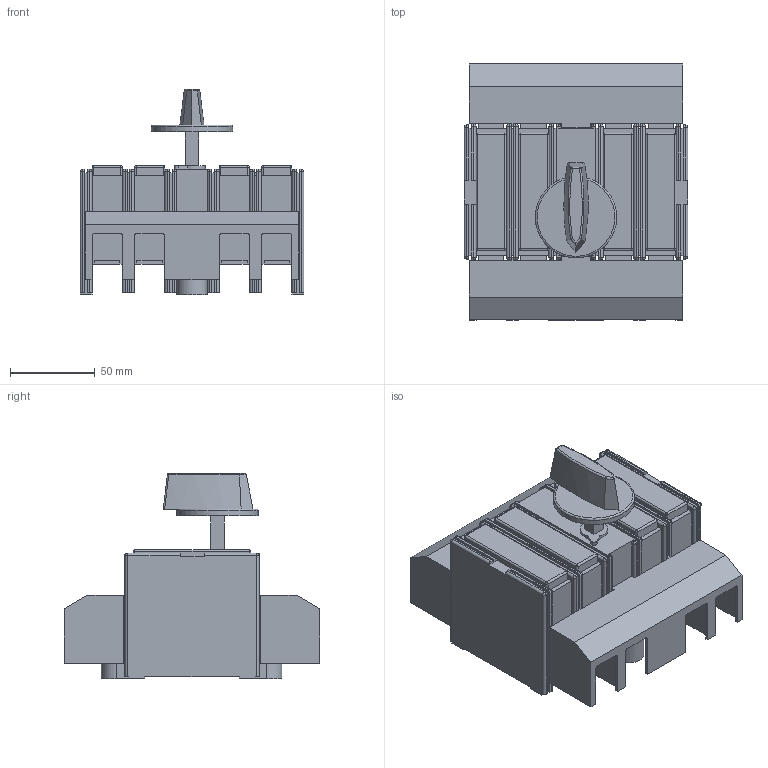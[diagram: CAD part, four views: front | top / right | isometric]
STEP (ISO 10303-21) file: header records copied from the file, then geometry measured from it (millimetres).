
FILE_DESCRIPTION(/* description */ (''),/* implementation_level */ '2;1');
FILE_NAME(/* name */ 'RA100 P3 N-R z oslonka zaciskow, RA100 P4-R z oslonka zaciskow.stp',/* time_stamp */ '2021-08-17T12:50:01+02:00',/* author */ (''),/* organization */ (''),/* preprocessor_version */ 'ST-DEVELOPER v18.1',/* originating_system */ 'SIEMENS PLM Software NX 1965',/* authorisation */ '');
FILE_SCHEMA (('AUTOMOTIVE_DESIGN { 1 0 10303 214 3 1 1 1 }'));
Length unit declared in the file: millimetre
Products named in the file (1): RA100 P3 N-R z oslonka zaciskow,  RA100 P4-R z oslonka zaciskow_stp
Bounding box: 132 x 151.03 x 121 mm (x, y, z)
Volume: 713705.7 mm3; surface area: 134586.8 mm2
Topology: 1 solids, 1 shells, 500 faces, 1357 edges, 828 vertices
Faces by surface type: plane 314, cylinder 137, sphere 41, bspline 7, torus 1
Full cylindrical faces by diameter (mm): 5.8 x2, 6.5 x8, 10 x2, 11.5 x2, 48 x1
Entity records: 15252 total; most frequent: CARTESIAN_POINT 2852, ORIENTED_EDGE 2582, DIRECTION 2538, EDGE_CURVE 1291, LINE 994, VECTOR 994, VERTEX_POINT 820, AXIS2_PLACEMENT_3D 772
